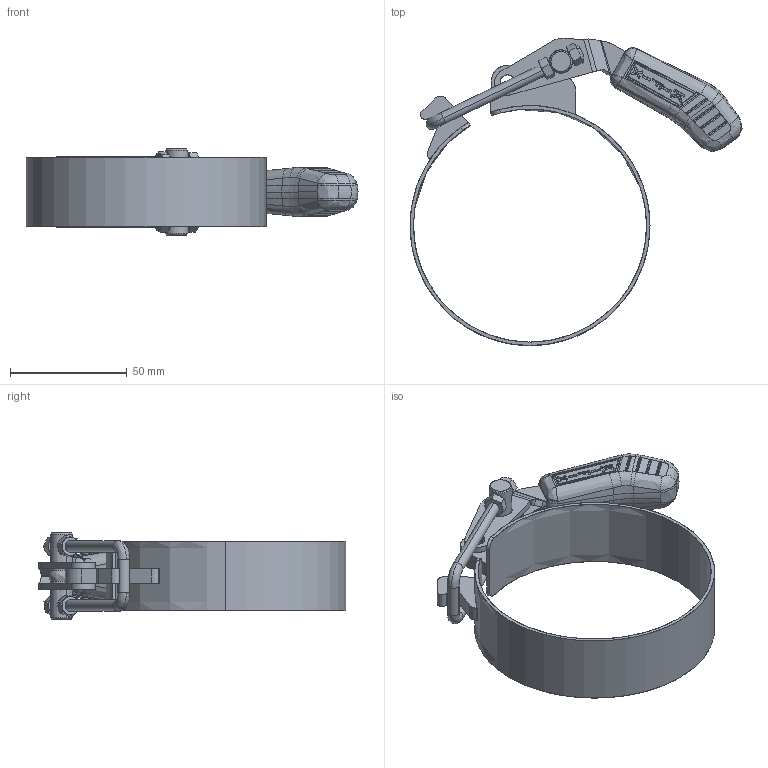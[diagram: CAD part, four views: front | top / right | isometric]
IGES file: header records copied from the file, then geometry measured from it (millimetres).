
Start section: SolidWorks IGES file using analytic representation for surfaces
Global section: file name: P:\SITE KIFIX\KF-743 CT 100\KF-743 CT100.IGS; native system: SolidWorks 2020; preprocessor: SolidWorks 2020; author: Adriano; date: 201001.094315; units: millimetre
Bounding box: 142.46 x 131.86 x 37 mm (x, y, z)
Surface area: 40192.7 mm2 (no closed solid volume)
Topology: 0 solids, 0 shells, 846 faces, 7541 edges, 7488 vertices
Faces by surface type: bspline 495, revolution 351
